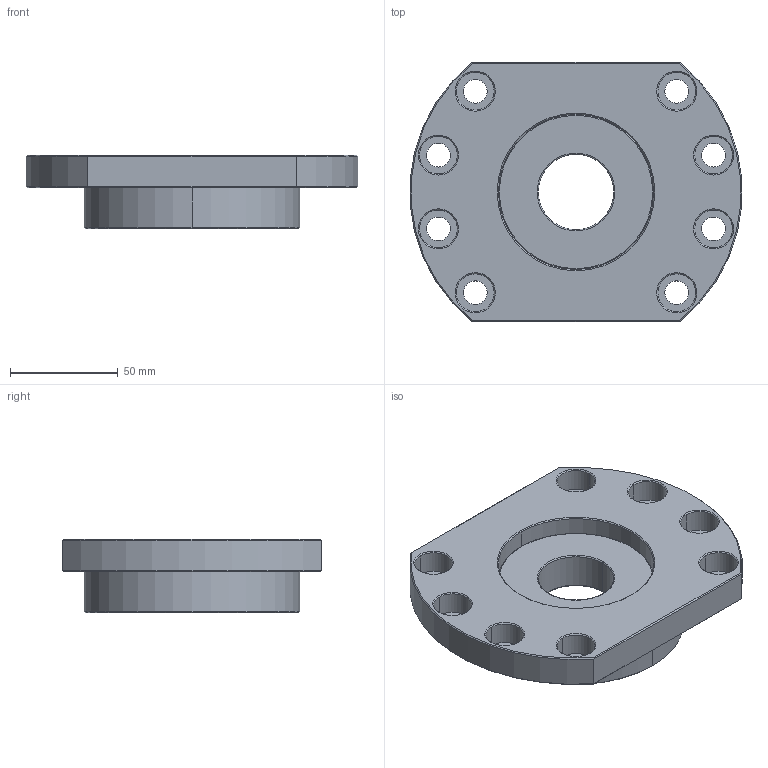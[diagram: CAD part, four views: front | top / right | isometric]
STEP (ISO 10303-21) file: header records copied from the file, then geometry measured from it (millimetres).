
FILE_DESCRIPTION (( 'STEP AP203' ), '1' );
FILE_NAME ('FSGF-35_203.STEP', '2013-02-28T00:11:09', ( '' ), ( '' ), 'SwSTEP 2.0', 'SolidWorks 2012', '' );
FILE_SCHEMA (( 'CONFIG_CONTROL_DESIGN' ));
Length unit declared in the file: millimetre
Products named in the file (1): FSGF-35_203
Bounding box: 153.49 x 120 x 34 mm (x, y, z)
Volume: 284922.2 mm3; surface area: 53659.4 mm2
Topology: 1 solids, 1 shells, 95 faces, 226 edges, 144 vertices
Faces by surface type: cylinder 42, cone 26, plane 19, torus 8
Entity records: 2925 total; most frequent: DIRECTION 554, CARTESIAN_POINT 490, ORIENTED_EDGE 452, AXIS2_PLACEMENT_3D 240, EDGE_CURVE 226, CIRCLE 144, VERTEX_POINT 144, EDGE_LOOP 124
